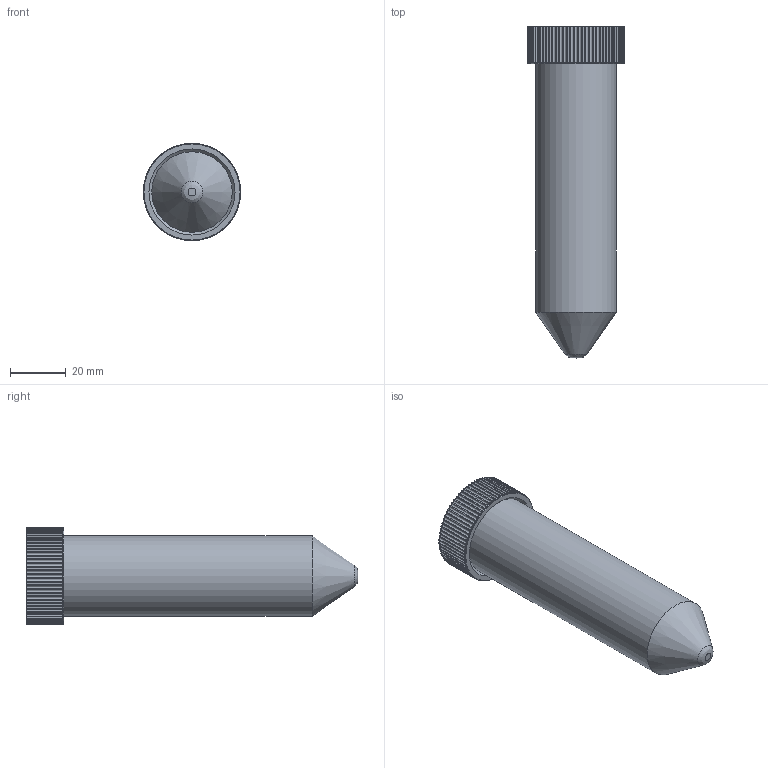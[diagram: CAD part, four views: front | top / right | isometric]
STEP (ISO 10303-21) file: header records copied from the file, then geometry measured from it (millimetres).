
FILE_DESCRIPTION(/* description */ (''),/* implementation_level */ '2;1');
FILE_NAME(/* name */ 'G:\Unidades compartidas\PROYECTO PANAMA\Archivos para pagina web\Cargas útiles\Estandar tubo de muestra\3D-Models\Tubo de muestra para experimento 50ml.stp',/* time_stamp */ '2022-04-10T11:12:10-05:00',/* author */ ('Juan David'),/* organization */ (''),/* preprocessor_version */ 'ST-DEVELOPER v18.1',/* originating_system */ 'Autodesk Inventor 2022',/* authorisation */ '');
FILE_SCHEMA (('AUTOMOTIVE_DESIGN { 1 0 10303 214 3 1 1 }'));
Length unit declared in the file: millimetre
Products named in the file (3): Tubo de muestra para experimento 50g; Tubo de muestra; Tapa Tubodemuestra
Assembly tree (2 placements, depth 2):
  Tubo de muestra para experimento 50g
    Tubo de muestra
    Tapa Tubodemuestra
Bounding box: 35 x 119.5 x 35 mm (x, y, z)
Volume: 17306.7 mm3; surface area: 24506.6 mm2
Topology: 2 solids, 2 shells, 175 faces, 504 edges, 335 vertices
Faces by surface type: plane 86, cylinder 84, cone 4, bspline 1
Full cylindrical faces by diameter (mm): 26.6 x1, 29 x2, 35 x1
Entity records: 6077 total; most frequent: DIRECTION 1198, CARTESIAN_POINT 1045, ORIENTED_EDGE 1008, AXIS2_PLACEMENT_3D 515, EDGE_CURVE 504, CIRCLE 336, VERTEX_POINT 335, EDGE_LOOP 177
